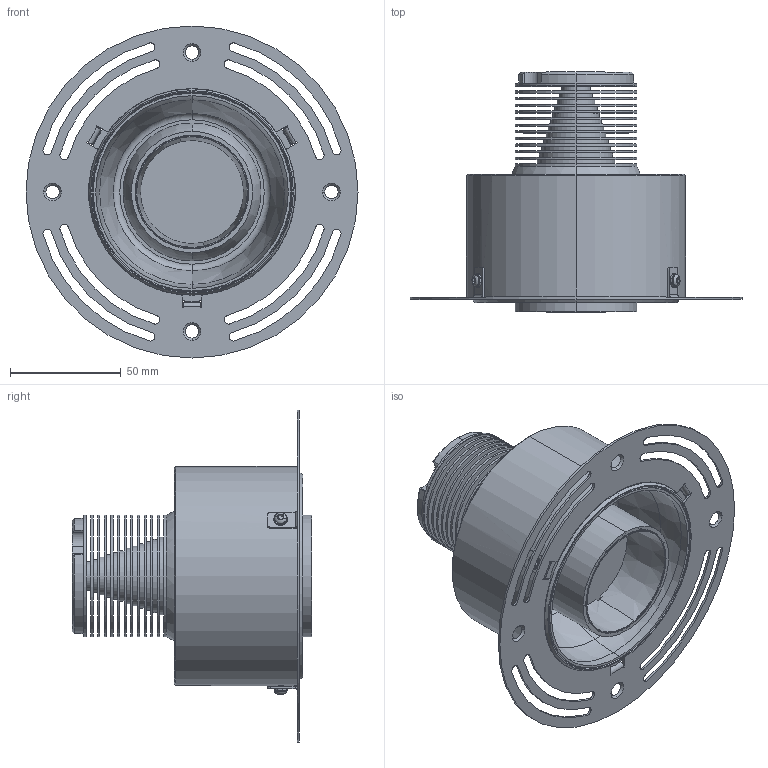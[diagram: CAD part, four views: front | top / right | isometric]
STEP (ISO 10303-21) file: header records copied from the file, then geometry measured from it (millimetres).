
FILE_DESCRIPTION (( 'STEP AP214' ), '1' );
FILE_NAME ('Saturno RF per BIM.STEP', '2024-02-05T07:41:04', ( '' ), ( '' ), 'SwSTEP 2.0', 'SolidWorks 2023', '' );
FILE_SCHEMA (( 'AUTOMOTIVE_DESIGN' ));
Length unit declared in the file: millimetre
Products named in the file (8): CORPO CENTRALE SATURNO RF-MR; 105202--; Saturno RF per BIM; Vite M3x4 TBEI; 105203--REV A; Rondella dentellata M3; 105204--; 105297--REV B
Assembly tree (11 placements, depth 3):
  Saturno RF per BIM
    105204--
      105202--
      105203--REV A
      Rondella dentellata M3  x3
      Vite M3x4 TBEI  x3
    105297--REV B
    CORPO CENTRALE SATURNO RF-MR
Bounding box: 150 x 108.36 x 150 mm (x, y, z)
Volume: 355938.8 mm3; surface area: 162721.2 mm2
Topology: 10 solids, 10 shells, 513 faces, 1290 edges, 826 vertices
Faces by surface type: plane 271, cylinder 183, cone 41, torus 18
Entity records: 11657 total; most frequent: CARTESIAN_POINT 2246, DIRECTION 2061, ORIENTED_EDGE 1828, EDGE_CURVE 914, AXIS2_PLACEMENT_3D 813, VERTEX_POINT 586, EDGE_LOOP 450, LINE 435
